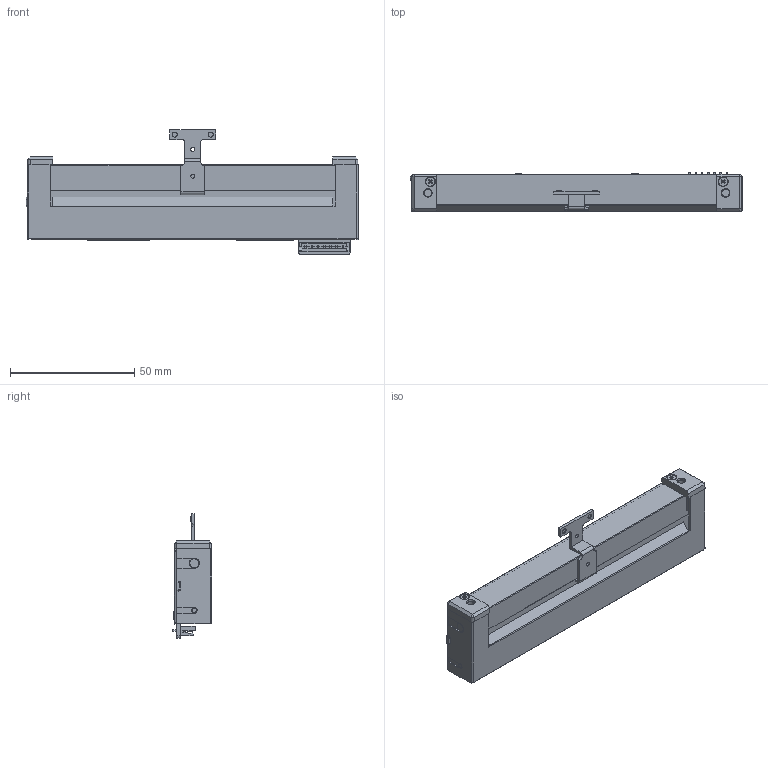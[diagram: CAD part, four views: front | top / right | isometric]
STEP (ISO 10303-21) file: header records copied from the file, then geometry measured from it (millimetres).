
FILE_DESCRIPTION(('FreeCAD Model'),'2;1');
FILE_NAME('Open CASCADE Shape Model','2024-07-24T17:17:23',(''),(''), 'Open CASCADE STEP processor 7.6','FreeCAD','Unknown');
FILE_SCHEMA(('AUTOMOTIVE_DESIGN { 1 0 10303 214 1 1 1 1 }'));
Length unit declared in the file: millimetre
Products named in the file (1): fa9102-b10k
Bounding box: 133.8 x 15.8 x 50.3 mm (x, y, z)
Volume: 49882.8 mm3; surface area: 26774.1 mm2
Topology: 1 solids, 11 shells, 681 faces, 1733 edges, 1080 vertices
Faces by surface type: plane 535, cylinder 103, cone 26, torus 11, revolution 4, sphere 2
Full cylindrical faces by diameter (mm): 1 x7, 1.1 x2, 1.5 x2, 1.6 x6, 2 x15, 2.2 x7, 2.6 x3, 3 x2, 3.6 x2, 4 x8
Entity records: 45521 total; most frequent: CARTESIAN_POINT 8830, DIRECTION 6026, LINE 3854, VECTOR 3854, ORIENTED_EDGE 3458, PCURVE 3458, DEFINITIONAL_REPRESENTATION 3458, EDGE_CURVE 1729
